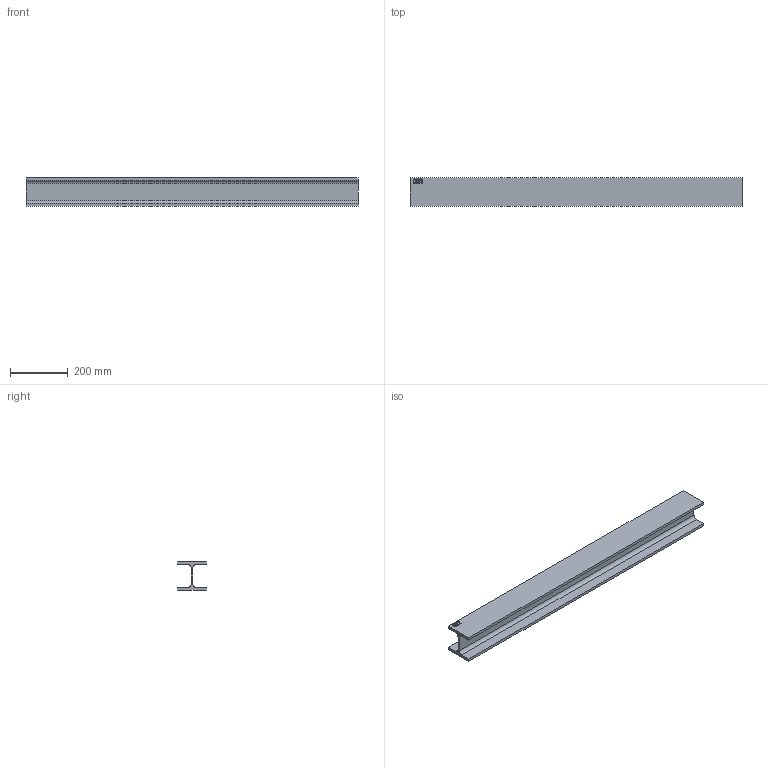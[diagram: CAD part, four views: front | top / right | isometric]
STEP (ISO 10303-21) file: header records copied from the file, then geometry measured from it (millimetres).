
FILE_DESCRIPTION (( 'STEP AP214' ), '1' );
FILE_NAME ('CCJ029-REP.082 - POUTRE INTERMEDIAIRE TRANSVERSE TYPE 3.STEP', '2025-10-31T14:30:38', ( '' ), ( '' ), 'SwSTEP 2.0', 'SolidWorks 2021', '' );
FILE_SCHEMA (( 'AUTOMOTIVE_DESIGN' ));
Length unit declared in the file: millimetre
Products named in the file (1): CCJ029-REP.082 - POUTRE INTERMEDIAIRE TRANSVERSE TYPE 3
Bounding box: 1150 x 100 x 100 mm (x, y, z)
Volume: 2994069.4 mm3; surface area: 657831.3 mm2
Topology: 1 solids, 1 shells, 62 faces, 162 edges, 108 vertices
Faces by surface type: bspline 32, plane 26, cylinder 4
Entity records: 3924 total; most frequent: CARTESIAN_POINT 2573, ORIENTED_EDGE 324, DIRECTION 168, EDGE_CURVE 162, VERTEX_POINT 108, LINE 90, VECTOR 90, EDGE_LOOP 68
